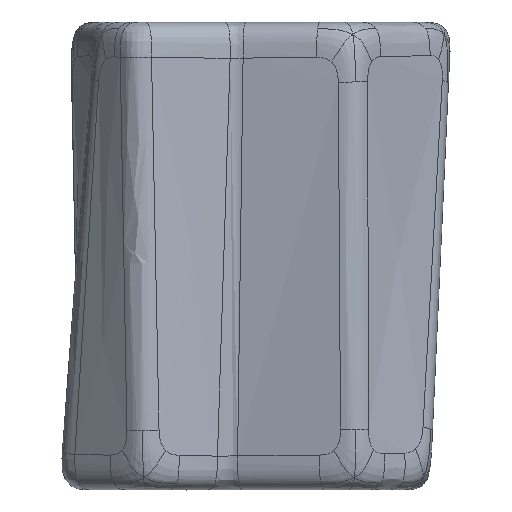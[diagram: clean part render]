
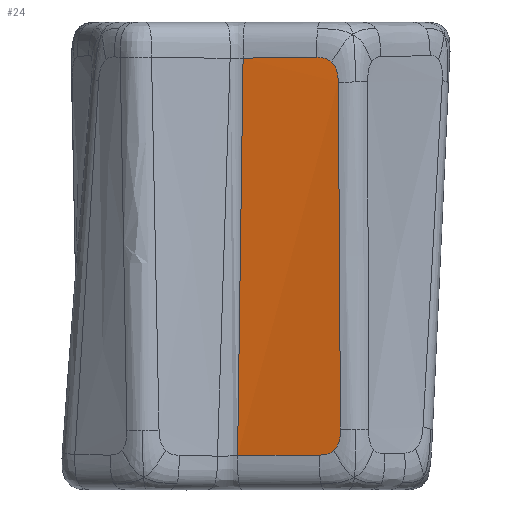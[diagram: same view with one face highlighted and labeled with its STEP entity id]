
A CAD part, left-side view. The second image highlights one B-rep face of the part: STEP entity #24.
In plain terms, the highlighted free-form (B-spline) face has degree [1, 1] with [2, 2] control points.
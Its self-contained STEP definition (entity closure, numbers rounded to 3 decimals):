
#24=ADVANCED_FACE('',(#173),#2229,.T.);
#173=FACE_OUTER_BOUND('',#322,.T.);
#322=EDGE_LOOP('',(#553,#554,#555,#556,#557,#558,#559,#560));
#553=ORIENTED_EDGE('',*,*,#1593,.T.);
#554=ORIENTED_EDGE('',*,*,#1595,.T.);
#555=ORIENTED_EDGE('',*,*,#1392,.F.);
#556=ORIENTED_EDGE('',*,*,#1375,.F.);
#557=ORIENTED_EDGE('',*,*,#1381,.T.);
#558=ORIENTED_EDGE('',*,*,#1581,.T.);
#559=ORIENTED_EDGE('',*,*,#1583,.T.);
#560=ORIENTED_EDGE('',*,*,#1388,.F.);
#1375=EDGE_CURVE('',#2054,#2056,#1759,.T.);
#1381=EDGE_CURVE('',#2054,#2055,#1765,.T.);
#1388=EDGE_CURVE('',#2052,#2053,#1772,.T.);
#1392=EDGE_CURVE('',#2056,#2057,#1776,.T.);
#1581=EDGE_CURVE('',#2055,#2206,#1965,.T.);
#1583=EDGE_CURVE('',#2206,#2053,#1967,.T.);
#1593=EDGE_CURVE('',#2052,#2213,#1977,.T.);
#1595=EDGE_CURVE('',#2213,#2057,#1979,.T.);
#1759=B_SPLINE_CURVE_WITH_KNOTS('',3,(#15139,#15140,#15141,#15142),
 .UNSPECIFIED.,.F.,.F.,(4,4),(29.726,369.785),
 .UNSPECIFIED.);
#1765=B_SPLINE_CURVE_WITH_KNOTS('',3,(#15169,#15170,#15171,#15172),
 .UNSPECIFIED.,.F.,.F.,(4,4),(11.303,93.411),
 .UNSPECIFIED.);
#1772=B_SPLINE_CURVE_WITH_KNOTS('',3,(#15206,#15207,#15208,#15209,#15210),
 .UNSPECIFIED.,.F.,.F.,(4,1,4),(51.268,200.066,348.666),
 .UNSPECIFIED.);
#1776=B_SPLINE_CURVE_WITH_KNOTS('',3,(#15229,#15230,#15231,#15232),
 .UNSPECIFIED.,.F.,.F.,(4,4),(5.747,78.614),
 .UNSPECIFIED.);
#1965=B_SPLINE_CURVE_WITH_KNOTS('',5,(#17085,#17086,#17087,#17088,#17089,
#17090,#17091,#17092,#17093,#17094),.UNSPECIFIED.,.F.,.F.,(6,1,1,1,1,6),
(-1.,-0.8,-0.6,-0.4,-0.2,0.),.UNSPECIFIED.);
#1967=B_SPLINE_CURVE_WITH_KNOTS('',5,(#17105,#17106,#17107,#17108,#17109,
#17110,#17111,#17112,#17113,#17114),.UNSPECIFIED.,.F.,.F.,(6,1,1,1,1,6),
(0.,0.2,0.4,0.6,0.8,1.),.UNSPECIFIED.);
#1977=B_SPLINE_CURVE_WITH_KNOTS('',5,(#17205,#17206,#17207,#17208,#17209,
#17210,#17211,#17212,#17213,#17214),.UNSPECIFIED.,.F.,.F.,(6,1,1,1,1,6),
(-1.,-0.8,-0.6,-0.4,-0.2,0.),.UNSPECIFIED.);
#1979=B_SPLINE_CURVE_WITH_KNOTS('',5,(#17225,#17226,#17227,#17228,#17229,
#17230,#17231,#17232,#17233,#17234),.UNSPECIFIED.,.F.,.F.,(6,1,1,1,1,6),
(0.,0.2,0.4,0.6,0.8,1.),.UNSPECIFIED.);
#2052=VERTEX_POINT('',#14158);
#2053=VERTEX_POINT('',#14159);
#2054=VERTEX_POINT('',#14160);
#2055=VERTEX_POINT('',#14161);
#2056=VERTEX_POINT('',#14162);
#2057=VERTEX_POINT('',#14163);
#2206=VERTEX_POINT('',#14312);
#2213=VERTEX_POINT('',#14319);
#2229=B_SPLINE_SURFACE_WITH_KNOTS('',1,1,((#2503,#2504),(#2505,#2506)),
 .UNSPECIFIED.,.F.,.F.,.F.,(2,2),(2,2),(1333.673,1593.881),
(0.,400.),.UNSPECIFIED.);
#2503=CARTESIAN_POINT('',(939.566,189.581,0.));
#2504=CARTESIAN_POINT('',(927.52,180.154,400.));
#2505=CARTESIAN_POINT('',(911.971,78.26,0.));
#2506=CARTESIAN_POINT('',(911.971,78.26,400.));
#14158=CARTESIAN_POINT('',(914.553,93.83,348.607));
#14159=CARTESIAN_POINT('',(915.222,92.001,51.267));
#14160=CARTESIAN_POINT('',(936.526,179.953,29.283));
#14161=CARTESIAN_POINT('',(919.626,109.974,29.776));
#14162=CARTESIAN_POINT('',(927.546,175.268,369.194));
#14163=CARTESIAN_POINT('',(917.427,112.27,369.717));
#14312=CARTESIAN_POINT('',(916.686,97.864,33.698));
#14319=CARTESIAN_POINT('',(915.429,99.676,365.736));
#15139=CARTESIAN_POINT('',(936.526,179.953,29.283));
#15140=CARTESIAN_POINT('',(933.63,178.497,142.592));
#15141=CARTESIAN_POINT('',(930.631,176.917,255.895));
#15142=CARTESIAN_POINT('',(927.546,175.268,369.194));
#15169=CARTESIAN_POINT('',(936.526,179.953,29.283));
#15170=CARTESIAN_POINT('',(930.89,156.627,29.447));
#15171=CARTESIAN_POINT('',(925.257,133.3,29.612));
#15172=CARTESIAN_POINT('',(919.626,109.974,29.776));
#15206=CARTESIAN_POINT('',(914.553,93.83,348.607));
#15207=CARTESIAN_POINT('',(914.725,93.681,299.015));
#15208=CARTESIAN_POINT('',(915.023,93.262,199.898));
#15209=CARTESIAN_POINT('',(915.19,92.507,100.787));
#15210=CARTESIAN_POINT('',(915.222,92.001,51.267));
#15229=CARTESIAN_POINT('',(927.546,175.268,369.194));
#15230=CARTESIAN_POINT('',(924.171,154.269,369.368));
#15231=CARTESIAN_POINT('',(920.797,133.27,369.543));
#15232=CARTESIAN_POINT('',(917.427,112.27,369.717));
#17085=CARTESIAN_POINT('',(919.626,109.974,29.776));
#17086=CARTESIAN_POINT('',(919.477,109.359,29.781));
#17087=CARTESIAN_POINT('',(919.186,108.155,29.82));
#17088=CARTESIAN_POINT('',(918.768,106.427,29.97));
#17089=CARTESIAN_POINT('',(918.248,104.28,30.352));
#17090=CARTESIAN_POINT('',(917.66,101.858,31.135));
#17091=CARTESIAN_POINT('',(917.239,100.13,32.006));
#17092=CARTESIAN_POINT('',(916.951,98.951,32.798));
#17093=CARTESIAN_POINT('',(916.772,98.218,33.388));
#17094=CARTESIAN_POINT('',(916.686,97.864,33.698));
#17105=CARTESIAN_POINT('',(916.686,97.864,33.698));
#17106=CARTESIAN_POINT('',(916.569,97.387,34.117));
#17107=CARTESIAN_POINT('',(916.347,96.479,35.013));
#17108=CARTESIAN_POINT('',(916.049,95.264,36.525));
#17109=CARTESIAN_POINT('',(915.722,93.934,38.88));
#17110=CARTESIAN_POINT('',(915.43,92.759,42.393));
#17111=CARTESIAN_POINT('',(915.289,92.21,45.658));
#17112=CARTESIAN_POINT('',(915.236,92.02,48.362));
#17113=CARTESIAN_POINT('',(915.223,91.991,50.279));
#17114=CARTESIAN_POINT('',(915.222,92.001,51.267));
#17205=CARTESIAN_POINT('',(914.553,93.83,348.607));
#17206=CARTESIAN_POINT('',(914.55,93.833,349.601));
#17207=CARTESIAN_POINT('',(914.551,93.889,351.524));
#17208=CARTESIAN_POINT('',(914.579,94.121,354.213));
#17209=CARTESIAN_POINT('',(914.664,94.717,357.415));
#17210=CARTESIAN_POINT('',(914.844,95.915,360.807));
#17211=CARTESIAN_POINT('',(915.045,97.218,363.054));
#17212=CARTESIAN_POINT('',(915.226,98.378,364.49));
#17213=CARTESIAN_POINT('',(915.359,99.231,365.339));
#17214=CARTESIAN_POINT('',(915.429,99.676,365.736));
#17225=CARTESIAN_POINT('',(915.429,99.676,365.736));
#17226=CARTESIAN_POINT('',(915.488,100.053,366.073));
#17227=CARTESIAN_POINT('',(915.61,100.834,366.708));
#17228=CARTESIAN_POINT('',(915.807,102.088,367.548));
#17229=CARTESIAN_POINT('',(916.096,103.917,368.449));
#17230=CARTESIAN_POINT('',(916.498,106.454,369.226));
#17231=CARTESIAN_POINT('',(916.851,108.671,369.58));
#17232=CARTESIAN_POINT('',(917.133,110.433,369.702));
#17233=CARTESIAN_POINT('',(917.328,111.651,369.722));
#17234=CARTESIAN_POINT('',(917.427,112.27,369.717));
